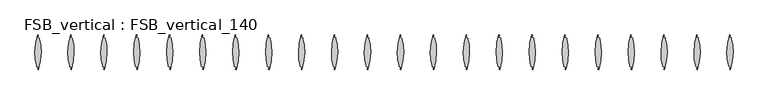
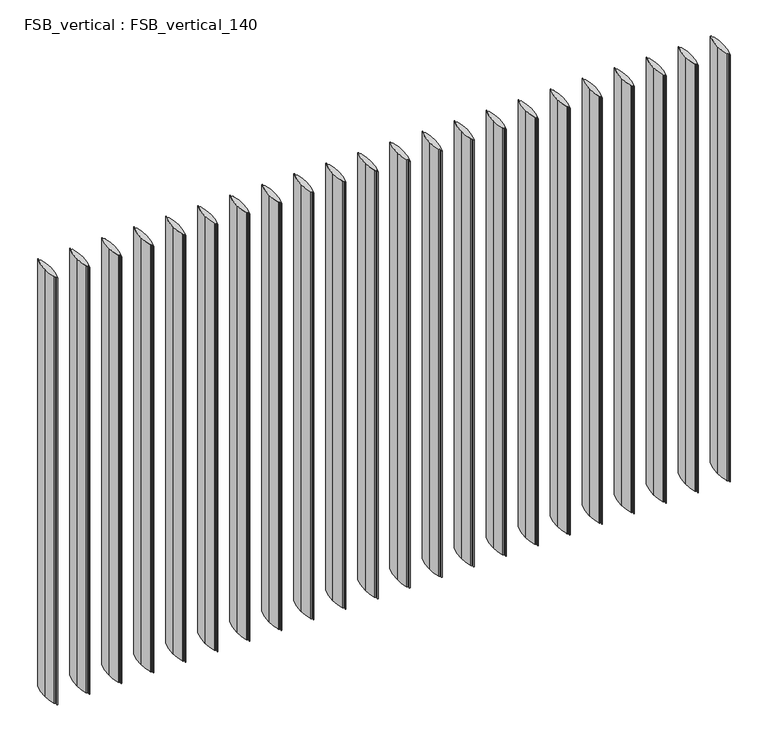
"""IFC4 building model written with IfcOpenShell, lengths in millimetres: proxy geometry, FSB_vertical : FSB_vertical_140."""

from ifc_helpers import new_model, si_unit, point, frame, frame_2d, origin, place, context, project, spatial, polyline, circle_curve, trimmed, segment, composite_curve, outline, extrude, source, transform, mapped, element, save


def fsb_vertical_fsb_vertical_140_fa5a06af(model_context):
    return source(origin(), model_context, "Body", "SweptSolid", [
        extrude(outline(composite_curve([segment(polyline([(-1382.5952639, -70.0601421), (-1384.960122, -69.2391022), (-1382.2998282, -60.340482), (-1386.3635279, -58.9296323)]), True, "CONTINUOUS"), segment(trimmed(circle_curve(frame_2d((-1384.7237963, -54.2066797)), 4.9995), [point((-1386.3635279, -58.9296323))], [point((-1389.5748491, -55.4159306))], False, "CARTESIAN"), True, "CONTINUOUS"), segment(trimmed(circle_curve(frame_2d((-1167.2618188, 0.0013672)), 229.1160411), [point((-1389.5748491, -55.4159306))], [point((-1396.37786, 0.0))], False, "CARTESIAN"), True, "CONTINUOUS"), segment(trimmed(circle_curve(frame_2d((-1167.2618188, -0.002269)), 229.1160411), [point((-1396.37786, 0.0))], [point((-1385.402932, 70.0592401))], False, "CARTESIAN"), True, "CONTINUOUS"), segment(polyline([(-1385.402932, 70.0592401), (-1383.0380739, 69.2382002), (-1385.6983677, 60.33958), (-1381.634668, 58.9287302)]), True, "CONTINUOUS"), segment(trimmed(circle_curve(frame_2d((-1383.2743996, 54.2057777)), 4.9995), [point((-1381.634668, 58.9287302))], [point((-1378.4233468, 55.4150286))], False, "CARTESIAN"), True, "CONTINUOUS"), segment(trimmed(circle_curve(frame_2d((-1600.7363771, -0.0022692)), 229.1160411), [point((-1378.4233468, 55.4150286))], [point((-1371.6203359, -0.0009021))], False, "CARTESIAN"), True, "CONTINUOUS"), segment(trimmed(circle_curve(frame_2d((-1600.7363771, 0.001367)), 229.1160411), [point((-1371.6203359, -0.0009021))], [point((-1382.5952639, -70.0601421))], False, "CARTESIAN"), True, "CONTINUOUS")], self_intersect=False)), frame((0.0, 0.0, 60.5), z_axis=(0.0, 0.0, 1.0), x_axis=(1.0, 0.0, 0.0)), (0.0, 0.0, 1.0), 1879.0),
        extrude(outline(composite_curve([segment(polyline([(-1249.1847717, -70.0601421), (-1251.5496298, -69.2391022), (-1248.889336, -60.340482), (-1252.9530357, -58.9296323)]), True, "CONTINUOUS"), segment(trimmed(circle_curve(frame_2d((-1251.3133042, -54.2066797)), 4.9995), [point((-1252.9530357, -58.9296323))], [point((-1256.1643569, -55.4159306))], False, "CARTESIAN"), True, "CONTINUOUS"), segment(trimmed(circle_curve(frame_2d((-1033.8513266, 0.0013672)), 229.1160411), [point((-1256.1643569, -55.4159306))], [point((-1262.9673678, 0.0))], False, "CARTESIAN"), True, "CONTINUOUS"), segment(trimmed(circle_curve(frame_2d((-1033.8513267, -0.002269)), 229.1160411), [point((-1262.9673678, 0.0))], [point((-1251.9924398, 70.0592401))], False, "CARTESIAN"), True, "CONTINUOUS"), segment(polyline([(-1251.9924398, 70.0592401), (-1249.6275817, 69.2382002), (-1252.2878755, 60.33958), (-1248.2241758, 58.9287302)]), True, "CONTINUOUS"), segment(trimmed(circle_curve(frame_2d((-1249.8639074, 54.2057777)), 4.9995), [point((-1248.2241758, 58.9287302))], [point((-1245.0128547, 55.4150286))], False, "CARTESIAN"), True, "CONTINUOUS"), segment(trimmed(circle_curve(frame_2d((-1467.3258849, -0.0022692)), 229.1160411), [point((-1245.0128547, 55.4150286))], [point((-1238.2098437, -0.0009021))], False, "CARTESIAN"), True, "CONTINUOUS"), segment(trimmed(circle_curve(frame_2d((-1467.3258849, 0.001367)), 229.1160411), [point((-1238.2098437, -0.0009021))], [point((-1249.1847717, -70.0601421))], False, "CARTESIAN"), True, "CONTINUOUS")], self_intersect=False)), frame((0.0, 0.0, 60.5), z_axis=(0.0, 0.0, 1.0), x_axis=(1.0, 0.0, 0.0)), (0.0, 0.0, 1.0), 1879.0),
        extrude(outline(composite_curve([segment(polyline([(-1115.7742795, -70.0601421), (-1118.1391376, -69.2391022), (-1115.4788438, -60.340482), (-1119.5425435, -58.9296323)]), True, "CONTINUOUS"), segment(trimmed(circle_curve(frame_2d((-1117.902812, -54.2066797)), 4.9995), [point((-1119.5425435, -58.9296323))], [point((-1122.7538647, -55.4159306))], False, "CARTESIAN"), True, "CONTINUOUS"), segment(trimmed(circle_curve(frame_2d((-900.4408345, 0.0013672)), 229.1160411), [point((-1122.7538647, -55.4159306))], [point((-1129.5568756, 0.0))], False, "CARTESIAN"), True, "CONTINUOUS"), segment(trimmed(circle_curve(frame_2d((-900.4408345, -0.002269)), 229.1160411), [point((-1129.5568756, 0.0))], [point((-1118.5819476, 70.0592401))], False, "CARTESIAN"), True, "CONTINUOUS"), segment(polyline([(-1118.5819476, 70.0592401), (-1116.2170895, 69.2382002), (-1118.8773833, 60.33958), (-1114.8136837, 58.9287302)]), True, "CONTINUOUS"), segment(trimmed(circle_curve(frame_2d((-1116.4534152, 54.2057777)), 4.9995), [point((-1114.8136837, 58.9287302))], [point((-1111.6023625, 55.4150286))], False, "CARTESIAN"), True, "CONTINUOUS"), segment(trimmed(circle_curve(frame_2d((-1333.9153927, -0.0022692)), 229.1160411), [point((-1111.6023625, 55.4150286))], [point((-1104.7993516, -0.0009021))], False, "CARTESIAN"), True, "CONTINUOUS"), segment(trimmed(circle_curve(frame_2d((-1333.9153927, 0.001367)), 229.1160411), [point((-1104.7993516, -0.0009021))], [point((-1115.7742795, -70.0601421))], False, "CARTESIAN"), True, "CONTINUOUS")], self_intersect=False)), frame((0.0, 0.0, 60.5), z_axis=(0.0, 0.0, 1.0), x_axis=(1.0, 0.0, 0.0)), (0.0, 0.0, 1.0), 1879.0),
        extrude(outline(composite_curve([segment(polyline([(-982.3637873, -70.0601421), (-984.7286454, -69.2391022), (-982.0683516, -60.340482), (-986.1320513, -58.9296323)]), True, "CONTINUOUS"), segment(trimmed(circle_curve(frame_2d((-984.4923198, -54.2066797)), 4.9995), [point((-986.1320513, -58.9296323))], [point((-989.3433725, -55.4159306))], False, "CARTESIAN"), True, "CONTINUOUS"), segment(trimmed(circle_curve(frame_2d((-767.0303423, 0.0013672)), 229.1160411), [point((-989.3433725, -55.4159306))], [point((-996.1463834, 0.0))], False, "CARTESIAN"), True, "CONTINUOUS"), segment(trimmed(circle_curve(frame_2d((-767.0303423, -0.002269)), 229.1160411), [point((-996.1463834, 0.0))], [point((-985.1714555, 70.0592401))], False, "CARTESIAN"), True, "CONTINUOUS"), segment(polyline([(-985.1714555, 70.0592401), (-982.8065973, 69.2382002), (-985.4668912, 60.33958), (-981.4031915, 58.9287302)]), True, "CONTINUOUS"), segment(trimmed(circle_curve(frame_2d((-983.042923, 54.2057777)), 4.9995), [point((-981.4031915, 58.9287302))], [point((-978.1918703, 55.4150286))], False, "CARTESIAN"), True, "CONTINUOUS"), segment(trimmed(circle_curve(frame_2d((-1200.5049005, -0.0022692)), 229.1160411), [point((-978.1918703, 55.4150286))], [point((-971.3888594, -0.0009021))], False, "CARTESIAN"), True, "CONTINUOUS"), segment(trimmed(circle_curve(frame_2d((-1200.5049005, 0.001367)), 229.1160411), [point((-971.3888594, -0.0009021))], [point((-982.3637873, -70.0601421))], False, "CARTESIAN"), True, "CONTINUOUS")], self_intersect=False)), frame((0.0, 0.0, 60.5), z_axis=(0.0, 0.0, 1.0), x_axis=(1.0, 0.0, 0.0)), (0.0, 0.0, 1.0), 1879.0),
        extrude(outline(composite_curve([segment(polyline([(-848.9532951, -70.0601421), (-851.3181533, -69.2391022), (-848.6578594, -60.340482), (-852.7215591, -58.9296323)]), True, "CONTINUOUS"), segment(trimmed(circle_curve(frame_2d((-851.0818276, -54.2066797)), 4.9995), [point((-852.7215591, -58.9296323))], [point((-855.9328803, -55.4159306))], False, "CARTESIAN"), True, "CONTINUOUS"), segment(trimmed(circle_curve(frame_2d((-633.6198501, 0.0013672)), 229.1160411), [point((-855.9328803, -55.4159306))], [point((-862.7358912, 0.0))], False, "CARTESIAN"), True, "CONTINUOUS"), segment(trimmed(circle_curve(frame_2d((-633.6198501, -0.002269)), 229.1160411), [point((-862.7358912, 0.0))], [point((-851.7609633, 70.0592401))], False, "CARTESIAN"), True, "CONTINUOUS"), segment(polyline([(-851.7609633, 70.0592401), (-849.3961051, 69.2382002), (-852.056399, 60.33958), (-847.9926993, 58.9287302)]), True, "CONTINUOUS"), segment(trimmed(circle_curve(frame_2d((-849.6324308, 54.2057777)), 4.9995), [point((-847.9926993, 58.9287302))], [point((-844.7813781, 55.4150286))], False, "CARTESIAN"), True, "CONTINUOUS"), segment(trimmed(circle_curve(frame_2d((-1067.0944083, -0.0022692)), 229.1160411), [point((-844.7813781, 55.4150286))], [point((-837.9783672, -0.0009021))], False, "CARTESIAN"), True, "CONTINUOUS"), segment(trimmed(circle_curve(frame_2d((-1067.0944083, 0.001367)), 229.1160411), [point((-837.9783672, -0.0009021))], [point((-848.9532951, -70.0601421))], False, "CARTESIAN"), True, "CONTINUOUS")], self_intersect=False)), frame((0.0, 0.0, 60.5), z_axis=(0.0, 0.0, 1.0), x_axis=(1.0, 0.0, 0.0)), (0.0, 0.0, 1.0), 1879.0),
        extrude(outline(composite_curve([segment(polyline([(-715.542803, -70.0601421), (-717.9076611, -69.2391022), (-715.2473672, -60.340482), (-719.3110669, -58.9296323)]), True, "CONTINUOUS"), segment(trimmed(circle_curve(frame_2d((-717.6713354, -54.2066797)), 4.9995), [point((-719.3110669, -58.9296323))], [point((-722.5223881, -55.4159306))], False, "CARTESIAN"), True, "CONTINUOUS"), segment(trimmed(circle_curve(frame_2d((-500.2093579, 0.0013672)), 229.1160411), [point((-722.5223881, -55.4159306))], [point((-729.325399, 0.0))], False, "CARTESIAN"), True, "CONTINUOUS"), segment(trimmed(circle_curve(frame_2d((-500.2093579, -0.002269)), 229.1160411), [point((-729.325399, 0.0))], [point((-718.3504711, 70.0592401))], False, "CARTESIAN"), True, "CONTINUOUS"), segment(polyline([(-718.3504711, 70.0592401), (-715.985613, 69.2382002), (-718.6459068, 60.33958), (-714.5822071, 58.9287302)]), True, "CONTINUOUS"), segment(trimmed(circle_curve(frame_2d((-716.2219386, 54.2057777)), 4.9995), [point((-714.5822071, 58.9287302))], [point((-711.3708859, 55.4150286))], False, "CARTESIAN"), True, "CONTINUOUS"), segment(trimmed(circle_curve(frame_2d((-933.6839161, -0.0022692)), 229.1160411), [point((-711.3708859, 55.4150286))], [point((-704.567875, -0.0009021))], False, "CARTESIAN"), True, "CONTINUOUS"), segment(trimmed(circle_curve(frame_2d((-933.6839161, 0.001367)), 229.1160411), [point((-704.567875, -0.0009021))], [point((-715.542803, -70.0601421))], False, "CARTESIAN"), True, "CONTINUOUS")], self_intersect=False)), frame((0.0, 0.0, 60.5), z_axis=(0.0, 0.0, 1.0), x_axis=(1.0, 0.0, 0.0)), (0.0, 0.0, 1.0), 1879.0),
        extrude(outline(composite_curve([segment(polyline([(-582.1323108, -70.0601421), (-584.4971689, -69.2391022), (-581.8368751, -60.340482), (-585.9005747, -58.9296323)]), True, "CONTINUOUS"), segment(trimmed(circle_curve(frame_2d((-584.2608432, -54.2066797)), 4.9995), [point((-585.9005747, -58.9296323))], [point((-589.1118959, -55.4159306))], False, "CARTESIAN"), True, "CONTINUOUS"), segment(trimmed(circle_curve(frame_2d((-366.7988657, 0.0013672)), 229.1160411), [point((-589.1118959, -55.4159306))], [point((-595.9149068, 0.0))], False, "CARTESIAN"), True, "CONTINUOUS"), segment(trimmed(circle_curve(frame_2d((-366.7988657, -0.002269)), 229.1160411), [point((-595.9149068, 0.0))], [point((-584.9399789, 70.0592401))], False, "CARTESIAN"), True, "CONTINUOUS"), segment(polyline([(-584.9399789, 70.0592401), (-582.5751208, 69.2382002), (-585.2354146, 60.33958), (-581.1717149, 58.9287302)]), True, "CONTINUOUS"), segment(trimmed(circle_curve(frame_2d((-582.8114464, 54.2057777)), 4.9995), [point((-581.1717149, 58.9287302))], [point((-577.9603937, 55.4150286))], False, "CARTESIAN"), True, "CONTINUOUS"), segment(trimmed(circle_curve(frame_2d((-800.2734239, -0.0022692)), 229.1160411), [point((-577.9603937, 55.4150286))], [point((-571.1573828, -0.0009021))], False, "CARTESIAN"), True, "CONTINUOUS"), segment(trimmed(circle_curve(frame_2d((-800.2734239, 0.001367)), 229.1160411), [point((-571.1573828, -0.0009021))], [point((-582.1323108, -70.0601421))], False, "CARTESIAN"), True, "CONTINUOUS")], self_intersect=False)), frame((0.0, 0.0, 60.5), z_axis=(0.0, 0.0, 1.0), x_axis=(1.0, 0.0, 0.0)), (0.0, 0.0, 1.0), 1879.0),
        extrude(outline(composite_curve([segment(polyline([(-448.7218186, -70.0601421), (-451.0866767, -69.2391022), (-448.4263829, -60.340482), (-452.4900826, -58.9296323)]), True, "CONTINUOUS"), segment(trimmed(circle_curve(frame_2d((-450.850351, -54.2066797)), 4.9995), [point((-452.4900826, -58.9296323))], [point((-455.7014038, -55.4159306))], False, "CARTESIAN"), True, "CONTINUOUS"), segment(trimmed(circle_curve(frame_2d((-233.3883735, 0.0013672)), 229.1160411), [point((-455.7014038, -55.4159306))], [point((-462.5044147, 0.0))], False, "CARTESIAN"), True, "CONTINUOUS"), segment(trimmed(circle_curve(frame_2d((-233.3883735, -0.002269)), 229.1160411), [point((-462.5044147, 0.0))], [point((-451.5294867, 70.0592401))], False, "CARTESIAN"), True, "CONTINUOUS"), segment(polyline([(-451.5294867, 70.0592401), (-449.1646286, 69.2382002), (-451.8249224, 60.33958), (-447.7612227, 58.9287302)]), True, "CONTINUOUS"), segment(trimmed(circle_curve(frame_2d((-449.4009543, 54.2057777)), 4.9995), [point((-447.7612227, 58.9287302))], [point((-444.5499015, 55.4150286))], False, "CARTESIAN"), True, "CONTINUOUS"), segment(trimmed(circle_curve(frame_2d((-666.8629318, -0.0022692)), 229.1160411), [point((-444.5499015, 55.4150286))], [point((-437.7468906, -0.0009021))], False, "CARTESIAN"), True, "CONTINUOUS"), segment(trimmed(circle_curve(frame_2d((-666.8629318, 0.001367)), 229.1160411), [point((-437.7468906, -0.0009021))], [point((-448.7218186, -70.0601421))], False, "CARTESIAN"), True, "CONTINUOUS")], self_intersect=False)), frame((0.0, 0.0, 60.5), z_axis=(0.0, 0.0, 1.0), x_axis=(1.0, 0.0, 0.0)), (0.0, 0.0, 1.0), 1879.0),
        extrude(outline(composite_curve([segment(polyline([(-315.3113264, -70.0601421), (-317.6761845, -69.2391022), (-315.0158907, -60.340482), (-319.0795904, -58.9296323)]), True, "CONTINUOUS"), segment(trimmed(circle_curve(frame_2d((-317.4398588, -54.2066797)), 4.9995), [point((-319.0795904, -58.9296323))], [point((-322.2909116, -55.4159306))], False, "CARTESIAN"), True, "CONTINUOUS"), segment(trimmed(circle_curve(frame_2d((-99.9778813, 0.0013672)), 229.1160411), [point((-322.2909116, -55.4159306))], [point((-329.0939225, 0.0))], False, "CARTESIAN"), True, "CONTINUOUS"), segment(trimmed(circle_curve(frame_2d((-99.9778813, -0.002269)), 229.1160411), [point((-329.0939225, 0.0))], [point((-318.1189945, 70.0592401))], False, "CARTESIAN"), True, "CONTINUOUS"), segment(polyline([(-318.1189945, 70.0592401), (-315.7541364, 69.2382002), (-318.4144302, 60.33958), (-314.3507305, 58.9287302)]), True, "CONTINUOUS"), segment(trimmed(circle_curve(frame_2d((-315.9904621, 54.2057777)), 4.9995), [point((-314.3507305, 58.9287302))], [point((-311.1394093, 55.4150286))], False, "CARTESIAN"), True, "CONTINUOUS"), segment(trimmed(circle_curve(frame_2d((-533.4524396, -0.0022692)), 229.1160411), [point((-311.1394093, 55.4150286))], [point((-304.3363984, -0.0009021))], False, "CARTESIAN"), True, "CONTINUOUS"), segment(trimmed(circle_curve(frame_2d((-533.4524396, 0.001367)), 229.1160411), [point((-304.3363984, -0.0009021))], [point((-315.3113264, -70.0601421))], False, "CARTESIAN"), True, "CONTINUOUS")], self_intersect=False)), frame((0.0, 0.0, 60.5), z_axis=(0.0, 0.0, 1.0), x_axis=(1.0, 0.0, 0.0)), (0.0, 0.0, 1.0), 1879.0),
        extrude(outline(composite_curve([segment(polyline([(-181.9008342, -70.0601421), (-184.2656923, -69.2391022), (-181.6053985, -60.340482), (-185.6690982, -58.9296323)]), True, "CONTINUOUS"), segment(trimmed(circle_curve(frame_2d((-184.0293667, -54.2066797)), 4.9995), [point((-185.6690982, -58.9296323))], [point((-188.8804194, -55.4159306))], False, "CARTESIAN"), True, "CONTINUOUS"), segment(trimmed(circle_curve(frame_2d((33.4326109, 0.0013672)), 229.1160411), [point((-188.8804194, -55.4159306))], [point((-195.6834303, 0.0))], False, "CARTESIAN"), True, "CONTINUOUS"), segment(trimmed(circle_curve(frame_2d((33.4326108, -0.002269)), 229.1160411), [point((-195.6834303, 0.0))], [point((-184.7085023, 70.0592401))], False, "CARTESIAN"), True, "CONTINUOUS"), segment(polyline([(-184.7085023, 70.0592401), (-182.3436442, 69.2382002), (-185.003938, 60.33958), (-180.9402383, 58.9287302)]), True, "CONTINUOUS"), segment(trimmed(circle_curve(frame_2d((-182.5799699, 54.2057777)), 4.9995), [point((-180.9402383, 58.9287302))], [point((-177.7289172, 55.4150286))], False, "CARTESIAN"), True, "CONTINUOUS"), segment(trimmed(circle_curve(frame_2d((-400.0419474, -0.0022692)), 229.1160411), [point((-177.7289172, 55.4150286))], [point((-170.9259062, -0.0009021))], False, "CARTESIAN"), True, "CONTINUOUS"), segment(trimmed(circle_curve(frame_2d((-400.0419474, 0.001367)), 229.1160411), [point((-170.9259062, -0.0009021))], [point((-181.9008342, -70.0601421))], False, "CARTESIAN"), True, "CONTINUOUS")], self_intersect=False)), frame((0.0, 0.0, 60.5), z_axis=(0.0, 0.0, 1.0), x_axis=(1.0, 0.0, 0.0)), (0.0, 0.0, 1.0), 1879.0),
        extrude(outline(composite_curve([segment(polyline([(-48.490342, -70.0601421), (-50.8552001, -69.2391022), (-48.1949063, -60.340482), (-52.258606, -58.9296323)]), True, "CONTINUOUS"), segment(trimmed(circle_curve(frame_2d((-50.6188745, -54.2066797)), 4.9995), [point((-52.258606, -58.9296323))], [point((-55.4699272, -55.4159306))], False, "CARTESIAN"), True, "CONTINUOUS"), segment(trimmed(circle_curve(frame_2d((166.843103, 0.0013672)), 229.1160411), [point((-55.4699272, -55.4159306))], [point((-62.2729381, 0.0))], False, "CARTESIAN"), True, "CONTINUOUS"), segment(trimmed(circle_curve(frame_2d((166.843103, -0.002269)), 229.1160411), [point((-62.2729381, 0.0))], [point((-51.2980101, 70.0592401))], False, "CARTESIAN"), True, "CONTINUOUS"), segment(polyline([(-51.2980101, 70.0592401), (-48.933152, 69.2382002), (-51.5934458, 60.33958), (-47.5297462, 58.9287302)]), True, "CONTINUOUS"), segment(trimmed(circle_curve(frame_2d((-49.1694777, 54.2057777)), 4.9995), [point((-47.5297462, 58.9287302))], [point((-44.318425, 55.4150286))], False, "CARTESIAN"), True, "CONTINUOUS"), segment(trimmed(circle_curve(frame_2d((-266.6314552, -0.0022692)), 229.1160411), [point((-44.318425, 55.4150286))], [point((-37.5154141, -0.0009021))], False, "CARTESIAN"), True, "CONTINUOUS"), segment(trimmed(circle_curve(frame_2d((-266.6314552, 0.001367)), 229.1160411), [point((-37.5154141, -0.0009021))], [point((-48.490342, -70.0601421))], False, "CARTESIAN"), True, "CONTINUOUS")], self_intersect=False)), frame((0.0, 0.0, 60.5), z_axis=(0.0, 0.0, 1.0), x_axis=(1.0, 0.0, 0.0)), (0.0, 0.0, 1.0), 1879.0),
        extrude(outline(composite_curve([segment(polyline([(84.9201502, -70.0601421), (82.5552921, -69.2391022), (85.2155859, -60.340482), (81.1518862, -58.9296323)]), True, "CONTINUOUS"), segment(trimmed(circle_curve(frame_2d((82.7916177, -54.2066797)), 4.9995), [point((81.1518862, -58.9296323))], [point((77.940565, -55.4159306))], False, "CARTESIAN"), True, "CONTINUOUS"), segment(trimmed(circle_curve(frame_2d((300.2535952, 0.0013672)), 229.1160411), [point((77.940565, -55.4159306))], [point((71.1375541, 0.0))], False, "CARTESIAN"), True, "CONTINUOUS"), segment(trimmed(circle_curve(frame_2d((300.2535952, -0.002269)), 229.1160411), [point((71.1375541, 0.0))], [point((82.112482, 70.0592401))], False, "CARTESIAN"), True, "CONTINUOUS"), segment(polyline([(82.112482, 70.0592401), (84.4773402, 69.2382002), (81.8170463, 60.33958), (85.880746, 58.9287302)]), True, "CONTINUOUS"), segment(trimmed(circle_curve(frame_2d((84.2410145, 54.2057777)), 4.9995), [point((85.880746, 58.9287302))], [point((89.0920672, 55.4150286))], False, "CARTESIAN"), True, "CONTINUOUS"), segment(trimmed(circle_curve(frame_2d((-133.220963, -0.0022692)), 229.1160411), [point((89.0920672, 55.4150286))], [point((95.8950781, -0.0009021))], False, "CARTESIAN"), True, "CONTINUOUS"), segment(trimmed(circle_curve(frame_2d((-133.220963, 0.001367)), 229.1160411), [point((95.8950781, -0.0009021))], [point((84.9201502, -70.0601421))], False, "CARTESIAN"), True, "CONTINUOUS")], self_intersect=False)), frame((0.0, 0.0, 60.5), z_axis=(0.0, 0.0, 1.0), x_axis=(1.0, 0.0, 0.0)), (0.0, 0.0, 1.0), 1879.0),
        extrude(outline(composite_curve([segment(polyline([(218.3306424, -70.0601421), (215.9657842, -69.2391022), (218.6260781, -60.340482), (214.5623784, -58.9296323)]), True, "CONTINUOUS"), segment(trimmed(circle_curve(frame_2d((216.2021099, -54.2066797)), 4.9995), [point((214.5623784, -58.9296323))], [point((211.3510572, -55.4159306))], False, "CARTESIAN"), True, "CONTINUOUS"), segment(trimmed(circle_curve(frame_2d((433.6640874, 0.0013672)), 229.1160411), [point((211.3510572, -55.4159306))], [point((204.5480463, 0.0))], False, "CARTESIAN"), True, "CONTINUOUS"), segment(trimmed(circle_curve(frame_2d((433.6640874, -0.002269)), 229.1160411), [point((204.5480463, 0.0))], [point((215.5229742, 70.0592401))], False, "CARTESIAN"), True, "CONTINUOUS"), segment(polyline([(215.5229742, 70.0592401), (217.8878323, 69.2382002), (215.2275385, 60.33958), (219.2912382, 58.9287302)]), True, "CONTINUOUS"), segment(trimmed(circle_curve(frame_2d((217.6515067, 54.2057777)), 4.9995), [point((219.2912382, 58.9287302))], [point((222.5025594, 55.4150286))], False, "CARTESIAN"), True, "CONTINUOUS"), segment(trimmed(circle_curve(frame_2d((0.1895292, -0.0022692)), 229.1160411), [point((222.5025594, 55.4150286))], [point((229.3055703, -0.0009021))], False, "CARTESIAN"), True, "CONTINUOUS"), segment(trimmed(circle_curve(frame_2d((0.1895292, 0.001367)), 229.1160411), [point((229.3055703, -0.0009021))], [point((218.3306424, -70.0601421))], False, "CARTESIAN"), True, "CONTINUOUS")], self_intersect=False)), frame((0.0, 0.0, 60.5), z_axis=(0.0, 0.0, 1.0), x_axis=(1.0, 0.0, 0.0)), (0.0, 0.0, 1.0), 1879.0),
        extrude(outline(composite_curve([segment(polyline([(351.7411345, -70.0601421), (349.3762764, -69.2391022), (352.0365703, -60.340482), (347.9728706, -58.9296323)]), True, "CONTINUOUS"), segment(trimmed(circle_curve(frame_2d((349.6126021, -54.2066797)), 4.9995), [point((347.9728706, -58.9296323))], [point((344.7615494, -55.4159306))], False, "CARTESIAN"), True, "CONTINUOUS"), segment(trimmed(circle_curve(frame_2d((567.0745796, 0.0013672)), 229.1160411), [point((344.7615494, -55.4159306))], [point((337.9585385, 0.0))], False, "CARTESIAN"), True, "CONTINUOUS"), segment(trimmed(circle_curve(frame_2d((567.0745796, -0.002269)), 229.1160411), [point((337.9585385, 0.0))], [point((348.9334664, 70.0592401))], False, "CARTESIAN"), True, "CONTINUOUS"), segment(polyline([(348.9334664, 70.0592401), (351.2983245, 69.2382002), (348.6380307, 60.33958), (352.7017304, 58.9287302)]), True, "CONTINUOUS"), segment(trimmed(circle_curve(frame_2d((351.0619989, 54.2057777)), 4.9995), [point((352.7017304, 58.9287302))], [point((355.9130516, 55.4150286))], False, "CARTESIAN"), True, "CONTINUOUS"), segment(trimmed(circle_curve(frame_2d((133.6000214, -0.0022692)), 229.1160411), [point((355.9130516, 55.4150286))], [point((362.7160625, -0.0009021))], False, "CARTESIAN"), True, "CONTINUOUS"), segment(trimmed(circle_curve(frame_2d((133.6000214, 0.001367)), 229.1160411), [point((362.7160625, -0.0009021))], [point((351.7411345, -70.0601421))], False, "CARTESIAN"), True, "CONTINUOUS")], self_intersect=False)), frame((0.0, 0.0, 60.5), z_axis=(0.0, 0.0, 1.0), x_axis=(1.0, 0.0, 0.0)), (0.0, 0.0, 1.0), 1879.0),
        extrude(outline(composite_curve([segment(polyline([(485.1516267, -70.0601421), (482.7867686, -69.2391022), (485.4470624, -60.340482), (481.3833628, -58.9296323)]), True, "CONTINUOUS"), segment(trimmed(circle_curve(frame_2d((483.0230943, -54.2066797)), 4.9995), [point((481.3833628, -58.9296323))], [point((478.1720416, -55.4159306))], False, "CARTESIAN"), True, "CONTINUOUS"), segment(trimmed(circle_curve(frame_2d((700.4850718, 0.0013672)), 229.1160411), [point((478.1720416, -55.4159306))], [point((471.3690306, 0.0))], False, "CARTESIAN"), True, "CONTINUOUS"), segment(trimmed(circle_curve(frame_2d((700.4850718, -0.002269)), 229.1160411), [point((471.3690306, 0.0))], [point((482.3439586, 70.0592401))], False, "CARTESIAN"), True, "CONTINUOUS"), segment(polyline([(482.3439586, 70.0592401), (484.7088167, 69.2382002), (482.0485229, 60.33958), (486.1122226, 58.9287302)]), True, "CONTINUOUS"), segment(trimmed(circle_curve(frame_2d((484.4724911, 54.2057777)), 4.9995), [point((486.1122226, 58.9287302))], [point((489.3235438, 55.4150286))], False, "CARTESIAN"), True, "CONTINUOUS"), segment(trimmed(circle_curve(frame_2d((267.0105135, -0.0022692)), 229.1160411), [point((489.3235438, 55.4150286))], [point((496.1265547, -0.0009021))], False, "CARTESIAN"), True, "CONTINUOUS"), segment(trimmed(circle_curve(frame_2d((267.0105136, 0.001367)), 229.1160411), [point((496.1265547, -0.0009021))], [point((485.1516267, -70.0601421))], False, "CARTESIAN"), True, "CONTINUOUS")], self_intersect=False)), frame((0.0, 0.0, 60.5), z_axis=(0.0, 0.0, 1.0), x_axis=(1.0, 0.0, 0.0)), (0.0, 0.0, 1.0), 1879.0),
        extrude(outline(composite_curve([segment(polyline([(618.5621189, -70.0601421), (616.1972608, -69.2391022), (618.8575546, -60.340482), (614.7938549, -58.9296323)]), True, "CONTINUOUS"), segment(trimmed(circle_curve(frame_2d((616.4335865, -54.2066797)), 4.9995), [point((614.7938549, -58.9296323))], [point((611.5825337, -55.4159306))], False, "CARTESIAN"), True, "CONTINUOUS"), segment(trimmed(circle_curve(frame_2d((833.895564, 0.0013672)), 229.1160411), [point((611.5825337, -55.4159306))], [point((604.7795228, 0.0))], False, "CARTESIAN"), True, "CONTINUOUS"), segment(trimmed(circle_curve(frame_2d((833.895564, -0.002269)), 229.1160411), [point((604.7795228, 0.0))], [point((615.7544508, 70.0592401))], False, "CARTESIAN"), True, "CONTINUOUS"), segment(polyline([(615.7544508, 70.0592401), (618.1193089, 69.2382002), (615.4590151, 60.33958), (619.5227148, 58.9287302)]), True, "CONTINUOUS"), segment(trimmed(circle_curve(frame_2d((617.8829832, 54.2057777)), 4.9995), [point((619.5227148, 58.9287302))], [point((622.734036, 55.4150286))], False, "CARTESIAN"), True, "CONTINUOUS"), segment(trimmed(circle_curve(frame_2d((400.4210057, -0.0022692)), 229.1160411), [point((622.734036, 55.4150286))], [point((629.5370469, -0.0009021))], False, "CARTESIAN"), True, "CONTINUOUS"), segment(trimmed(circle_curve(frame_2d((400.4210057, 0.001367)), 229.1160411), [point((629.5370469, -0.0009021))], [point((618.5621189, -70.0601421))], False, "CARTESIAN"), True, "CONTINUOUS")], self_intersect=False)), frame((0.0, 0.0, 60.5), z_axis=(0.0, 0.0, 1.0), x_axis=(1.0, 0.0, 0.0)), (0.0, 0.0, 1.0), 1879.0),
        extrude(outline(composite_curve([segment(polyline([(751.9726111, -70.0601421), (749.607753, -69.2391022), (752.2680468, -60.340482), (748.2043471, -58.9296323)]), True, "CONTINUOUS"), segment(trimmed(circle_curve(frame_2d((749.8440787, -54.2066797)), 4.9995), [point((748.2043471, -58.9296323))], [point((744.9930259, -55.4159306))], False, "CARTESIAN"), True, "CONTINUOUS"), segment(trimmed(circle_curve(frame_2d((967.3060562, 0.0013672)), 229.1160411), [point((744.9930259, -55.4159306))], [point((738.190015, 0.0))], False, "CARTESIAN"), True, "CONTINUOUS"), segment(trimmed(circle_curve(frame_2d((967.3060562, -0.002269)), 229.1160411), [point((738.190015, 0.0))], [point((749.164943, 70.0592401))], False, "CARTESIAN"), True, "CONTINUOUS"), segment(polyline([(749.164943, 70.0592401), (751.5298011, 69.2382002), (748.8695073, 60.33958), (752.933207, 58.9287302)]), True, "CONTINUOUS"), segment(trimmed(circle_curve(frame_2d((751.2934754, 54.2057777)), 4.9995), [point((752.933207, 58.9287302))], [point((756.1445282, 55.4150286))], False, "CARTESIAN"), True, "CONTINUOUS"), segment(trimmed(circle_curve(frame_2d((533.8314979, -0.0022692)), 229.1160411), [point((756.1445282, 55.4150286))], [point((762.9475391, -0.0009021))], False, "CARTESIAN"), True, "CONTINUOUS"), segment(trimmed(circle_curve(frame_2d((533.8314979, 0.001367)), 229.1160411), [point((762.9475391, -0.0009021))], [point((751.9726111, -70.0601421))], False, "CARTESIAN"), True, "CONTINUOUS")], self_intersect=False)), frame((0.0, 0.0, 60.5), z_axis=(0.0, 0.0, 1.0), x_axis=(1.0, 0.0, 0.0)), (0.0, 0.0, 1.0), 1879.0),
        extrude(outline(composite_curve([segment(polyline([(885.3831033, -70.0601421), (883.0182452, -69.2391022), (885.678539, -60.340482), (881.6148393, -58.9296323)]), True, "CONTINUOUS"), segment(trimmed(circle_curve(frame_2d((883.2545708, -54.2066797)), 4.9995), [point((881.6148393, -58.9296323))], [point((878.4035181, -55.4159306))], False, "CARTESIAN"), True, "CONTINUOUS"), segment(trimmed(circle_curve(frame_2d((1100.7165484, 0.0013672)), 229.1160411), [point((878.4035181, -55.4159306))], [point((871.6005072, 0.0))], False, "CARTESIAN"), True, "CONTINUOUS"), segment(trimmed(circle_curve(frame_2d((1100.7165483, -0.002269)), 229.1160411), [point((871.6005072, 0.0))], [point((882.5754352, 70.0592401))], False, "CARTESIAN"), True, "CONTINUOUS"), segment(polyline([(882.5754352, 70.0592401), (884.9402933, 69.2382002), (882.2799995, 60.33958), (886.3436991, 58.9287302)]), True, "CONTINUOUS"), segment(trimmed(circle_curve(frame_2d((884.7039676, 54.2057777)), 4.9995), [point((886.3436991, 58.9287302))], [point((889.5550203, 55.4150286))], False, "CARTESIAN"), True, "CONTINUOUS"), segment(trimmed(circle_curve(frame_2d((667.2419901, -0.0022692)), 229.1160411), [point((889.5550203, 55.4150286))], [point((896.3580313, -0.0009021))], False, "CARTESIAN"), True, "CONTINUOUS"), segment(trimmed(circle_curve(frame_2d((667.2419901, 0.001367)), 229.1160411), [point((896.3580313, -0.0009021))], [point((885.3831033, -70.0601421))], False, "CARTESIAN"), True, "CONTINUOUS")], self_intersect=False)), frame((0.0, 0.0, 60.5), z_axis=(0.0, 0.0, 1.0), x_axis=(1.0, 0.0, 0.0)), (0.0, 0.0, 1.0), 1879.0),
        extrude(outline(composite_curve([segment(polyline([(1018.7935955, -70.0601421), (1016.4287374, -69.2391022), (1019.0890312, -60.340482), (1015.0253315, -58.9296323)]), True, "CONTINUOUS"), segment(trimmed(circle_curve(frame_2d((1016.665063, -54.2066797)), 4.9995), [point((1015.0253315, -58.9296323))], [point((1011.8140103, -55.4159306))], False, "CARTESIAN"), True, "CONTINUOUS"), segment(trimmed(circle_curve(frame_2d((1234.1270405, 0.0013672)), 229.1160411), [point((1011.8140103, -55.4159306))], [point((1005.0109994, 0.0))], False, "CARTESIAN"), True, "CONTINUOUS"), segment(trimmed(circle_curve(frame_2d((1234.1270405, -0.002269)), 229.1160411), [point((1005.0109994, 0.0))], [point((1015.9859274, 70.0592401))], False, "CARTESIAN"), True, "CONTINUOUS"), segment(polyline([(1015.9859274, 70.0592401), (1018.3507855, 69.2382002), (1015.6904917, 60.33958), (1019.7541913, 58.9287302)]), True, "CONTINUOUS"), segment(trimmed(circle_curve(frame_2d((1018.1144598, 54.2057777)), 4.9995), [point((1019.7541913, 58.9287302))], [point((1022.9655125, 55.4150286))], False, "CARTESIAN"), True, "CONTINUOUS"), segment(trimmed(circle_curve(frame_2d((800.6524823, -0.0022692)), 229.1160411), [point((1022.9655125, 55.4150286))], [point((1029.7685234, -0.0009021))], False, "CARTESIAN"), True, "CONTINUOUS"), segment(trimmed(circle_curve(frame_2d((800.6524823, 0.001367)), 229.1160411), [point((1029.7685234, -0.0009021))], [point((1018.7935955, -70.0601421))], False, "CARTESIAN"), True, "CONTINUOUS")], self_intersect=False)), frame((0.0, 0.0, 60.5), z_axis=(0.0, 0.0, 1.0), x_axis=(1.0, 0.0, 0.0)), (0.0, 0.0, 1.0), 1879.0),
        extrude(outline(composite_curve([segment(polyline([(1152.2040877, -70.0601421), (1149.8392296, -69.2391022), (1152.4995234, -60.340482), (1148.4358237, -58.9296323)]), True, "CONTINUOUS"), segment(trimmed(circle_curve(frame_2d((1150.0755552, -54.2066797)), 4.9995), [point((1148.4358237, -58.9296323))], [point((1145.2245025, -55.4159306))], False, "CARTESIAN"), True, "CONTINUOUS"), segment(trimmed(circle_curve(frame_2d((1367.5375327, 0.0013672)), 229.1160411), [point((1145.2245025, -55.4159306))], [point((1138.4214916, 0.0))], False, "CARTESIAN"), True, "CONTINUOUS"), segment(trimmed(circle_curve(frame_2d((1367.5375327, -0.002269)), 229.1160411), [point((1138.4214916, 0.0))], [point((1149.3964195, 70.0592401))], False, "CARTESIAN"), True, "CONTINUOUS"), segment(polyline([(1149.3964195, 70.0592401), (1151.7612777, 69.2382002), (1149.1009838, 60.33958), (1153.1646835, 58.9287302)]), True, "CONTINUOUS"), segment(trimmed(circle_curve(frame_2d((1151.524952, 54.2057777)), 4.9995), [point((1153.1646835, 58.9287302))], [point((1156.3760047, 55.4150286))], False, "CARTESIAN"), True, "CONTINUOUS"), segment(trimmed(circle_curve(frame_2d((934.0629745, -0.0022692)), 229.1160411), [point((1156.3760047, 55.4150286))], [point((1163.1790156, -0.0009021))], False, "CARTESIAN"), True, "CONTINUOUS"), segment(trimmed(circle_curve(frame_2d((934.0629745, 0.001367)), 229.1160411), [point((1163.1790156, -0.0009021))], [point((1152.2040877, -70.0601421))], False, "CARTESIAN"), True, "CONTINUOUS")], self_intersect=False)), frame((0.0, 0.0, 60.5), z_axis=(0.0, 0.0, 1.0), x_axis=(1.0, 0.0, 0.0)), (0.0, 0.0, 1.0), 1879.0),
        extrude(outline(composite_curve([segment(polyline([(1285.6145799, -70.0601421), (1283.2497217, -69.2391022), (1285.9100156, -60.340482), (1281.8463159, -58.9296323)]), True, "CONTINUOUS"), segment(trimmed(circle_curve(frame_2d((1283.4860474, -54.2066797)), 4.9995), [point((1281.8463159, -58.9296323))], [point((1278.6349947, -55.4159306))], False, "CARTESIAN"), True, "CONTINUOUS"), segment(trimmed(circle_curve(frame_2d((1500.9480249, 0.0013672)), 229.1160411), [point((1278.6349947, -55.4159306))], [point((1271.8319838, 0.0))], False, "CARTESIAN"), True, "CONTINUOUS"), segment(trimmed(circle_curve(frame_2d((1500.9480249, -0.002269)), 229.1160411), [point((1271.8319838, 0.0))], [point((1282.8069117, 70.0592401))], False, "CARTESIAN"), True, "CONTINUOUS"), segment(polyline([(1282.8069117, 70.0592401), (1285.1717698, 69.2382002), (1282.511476, 60.33958), (1286.5751757, 58.9287302)]), True, "CONTINUOUS"), segment(trimmed(circle_curve(frame_2d((1284.9354442, 54.2057777)), 4.9995), [point((1286.5751757, 58.9287302))], [point((1289.7864969, 55.4150286))], False, "CARTESIAN"), True, "CONTINUOUS"), segment(trimmed(circle_curve(frame_2d((1067.4734667, -0.0022692)), 229.1160411), [point((1289.7864969, 55.4150286))], [point((1296.5895078, -0.0009021))], False, "CARTESIAN"), True, "CONTINUOUS"), segment(trimmed(circle_curve(frame_2d((1067.4734667, 0.001367)), 229.1160411), [point((1296.5895078, -0.0009021))], [point((1285.6145799, -70.0601421))], False, "CARTESIAN"), True, "CONTINUOUS")], self_intersect=False)), frame((0.0, 0.0, 60.5), z_axis=(0.0, 0.0, 1.0), x_axis=(1.0, 0.0, 0.0)), (0.0, 0.0, 1.0), 1879.0),
        extrude(outline(composite_curve([segment(polyline([(1419.025072, -70.0601421), (1416.6602139, -69.2391022), (1419.3205077, -60.340482), (1415.2568081, -58.9296323)]), True, "CONTINUOUS"), segment(trimmed(circle_curve(frame_2d((1416.8965396, -54.2066797)), 4.9995), [point((1415.2568081, -58.9296323))], [point((1412.0454869, -55.4159306))], False, "CARTESIAN"), True, "CONTINUOUS"), segment(trimmed(circle_curve(frame_2d((1634.3585171, 0.0013672)), 229.1160411), [point((1412.0454869, -55.4159306))], [point((1405.242476, 0.0))], False, "CARTESIAN"), True, "CONTINUOUS"), segment(trimmed(circle_curve(frame_2d((1634.3585171, -0.002269)), 229.1160411), [point((1405.242476, 0.0))], [point((1416.2174039, 70.0592401))], False, "CARTESIAN"), True, "CONTINUOUS"), segment(polyline([(1416.2174039, 70.0592401), (1418.582262, 69.2382002), (1415.9219682, 60.33958), (1419.9856679, 58.9287302)]), True, "CONTINUOUS"), segment(trimmed(circle_curve(frame_2d((1418.3459364, 54.2057777)), 4.9995), [point((1419.9856679, 58.9287302))], [point((1423.1969891, 55.4150286))], False, "CARTESIAN"), True, "CONTINUOUS"), segment(trimmed(circle_curve(frame_2d((1200.8839589, -0.0022692)), 229.1160411), [point((1423.1969891, 55.4150286))], [point((1430.0, -0.0009021))], False, "CARTESIAN"), True, "CONTINUOUS"), segment(trimmed(circle_curve(frame_2d((1200.8839589, 0.001367)), 229.1160411), [point((1430.0, -0.0009021))], [point((1419.025072, -70.0601421))], False, "CARTESIAN"), True, "CONTINUOUS")], self_intersect=False)), frame((0.0, 0.0, 60.5), z_axis=(0.0, 0.0, 1.0), x_axis=(1.0, 0.0, 0.0)), (0.0, 0.0, 1.0), 1879.0),
    ])


if __name__ == "__main__":
    model = new_model("IFC4")
    model_context = context("Model", 3, world=origin())
    ifc_project = project(units=[si_unit("LENGTHUNIT", "METRE", prefix="MILLI")], contexts=[model_context])
    site = spatial("IfcSite", under=ifc_project)
    building = spatial("IfcBuilding", under=site)
    placement = place(None, origin())
    fsb_vertical_fsb_vertical_140_shape = fsb_vertical_fsb_vertical_140_fa5a06af(model_context)
    element("IfcBuildingElementProxy", 1, Name="FSB_vertical : FSB_vertical_140", ObjectType="FSB_vertical : FSB_vertical_140", at=placement, inside=building, context=model_context, shape_type="MappedRepresentation", body=[
        mapped(fsb_vertical_fsb_vertical_140_shape, transform((0.0, 0.0, 0.0), x_axis=(1.0, 0.0, 0.0), y_axis=(0.0, 1.0, 0.0), z_axis=(0.0, 0.0, 1.0))),
    ])
    save(model, "model.ifc")
